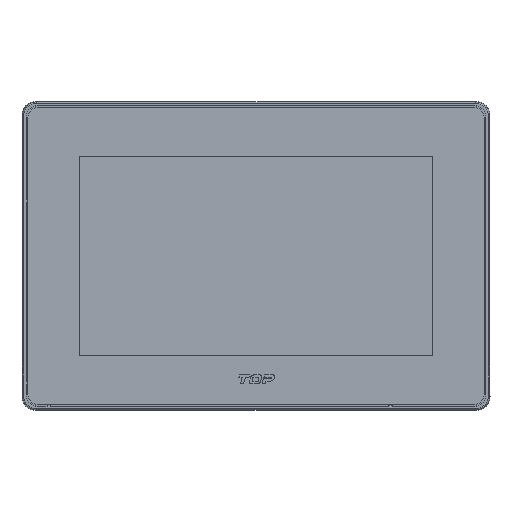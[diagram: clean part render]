
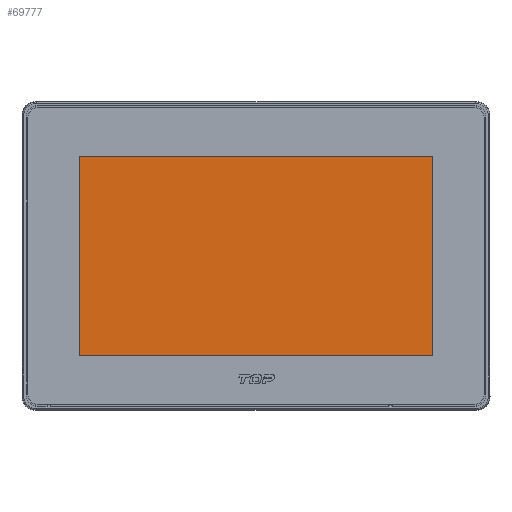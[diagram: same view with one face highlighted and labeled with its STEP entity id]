
A CAD part, top view. The second image highlights one B-rep face of the part: STEP entity #69777.
In plain terms, the highlighted planar face has unit normal (0, 0, 1).
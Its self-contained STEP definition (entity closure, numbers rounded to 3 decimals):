
#7043=DIRECTION('',(-1.,0.,0.));
#7044=VECTOR('',#7043,155.);
#7045=CARTESIAN_POINT('',(77.5,-43.5,4.9));
#7046=LINE('',#7045,#7044);
#7047=DIRECTION('',(0.,1.,0.));
#7048=VECTOR('',#7047,87.);
#7049=CARTESIAN_POINT('',(-77.5,-43.5,4.9));
#7050=LINE('',#7049,#7048);
#7051=DIRECTION('',(1.,0.,0.));
#7052=VECTOR('',#7051,155.);
#7053=CARTESIAN_POINT('',(-77.5,43.5,4.9));
#7054=LINE('',#7053,#7052);
#7055=DIRECTION('',(0.,-1.,0.));
#7056=VECTOR('',#7055,87.);
#7057=CARTESIAN_POINT('',(77.5,43.5,4.9));
#7058=LINE('',#7057,#7056);
#50565=CARTESIAN_POINT('',(-77.5,43.5,4.9));
#50566=VERTEX_POINT('',#50565);
#50567=CARTESIAN_POINT('',(77.5,43.5,4.9));
#50568=VERTEX_POINT('',#50567);
#50569=CARTESIAN_POINT('',(-77.5,-43.5,4.9));
#50570=VERTEX_POINT('',#50569);
#50571=CARTESIAN_POINT('',(77.5,-43.5,4.9));
#50572=VERTEX_POINT('',#50571);
#69766=CARTESIAN_POINT('',(0.,0.,4.9));
#69767=DIRECTION('',(0.,0.,1.));
#69768=DIRECTION('',(1.,0.,0.));
#69769=AXIS2_PLACEMENT_3D('',#69766,#69767,#69768);
#69770=PLANE('',#69769);
#69771=ORIENTED_EDGE('',*,*,#69748,.T.);
#69772=ORIENTED_EDGE('',*,*,#69734,.T.);
#69773=ORIENTED_EDGE('',*,*,#69720,.T.);
#69774=ORIENTED_EDGE('',*,*,#69761,.T.);
#69775=EDGE_LOOP('',(#69771,#69772,#69773,#69774));
#69776=FACE_OUTER_BOUND('',#69775,.F.);
#69777=ADVANCED_FACE('',(#69776),#69770,.T.);
#69720=EDGE_CURVE('',#50566,#50568,#7054,.T.);
#69734=EDGE_CURVE('',#50570,#50566,#7050,.T.);
#69748=EDGE_CURVE('',#50572,#50570,#7046,.T.);
#69761=EDGE_CURVE('',#50568,#50572,#7058,.T.);
